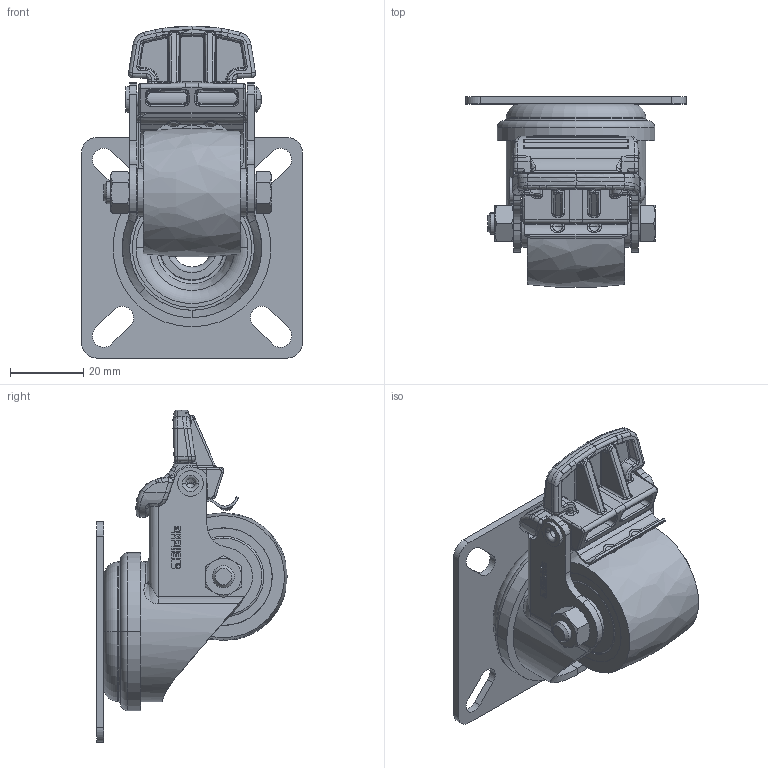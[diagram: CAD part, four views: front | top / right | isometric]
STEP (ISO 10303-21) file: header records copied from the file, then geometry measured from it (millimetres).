
FILE_DESCRIPTION (( 'STEP AP214' ), '1' );
FILE_NAME ('LPA-VSTH_35K-RA_935487-214.step', '2022-01-13T07:58:08', ( '' ), ( '' ), 'SwSTEP 2.0', 'SolidWorks 2018', '' );
FILE_SCHEMA (( 'AUTOMOTIVE_DESIGN' ));
Length unit declared in the file: millimetre
Products named in the file (5): GH-LPA-035x30-22-RA_6x30_G16_3D; VSTH_3D_G16_VSTH_35_6K_227934; VSTH_35_6K_G16_3D; LPA-VSTH_35K-RA_935487-214; GH-LPA_GH-LPA-035x30-22-RA_6x30
Assembly tree (4 placements, depth 3):
  LPA-VSTH_35K-RA_935487-214
    GH-LPA_GH-LPA-035x30-22-RA_6x30
      GH-LPA-035x30-22-RA_6x30_G16_3D
    VSTH_3D_G16_VSTH_35_6K_227934
      VSTH_35_6K_G16_3D
Bounding box: 60 x 51.9 x 90.36 mm (x, y, z)
Volume: 55953.2 mm3; surface area: 31489.7 mm2
Topology: 2 solids, 4 shells, 1345 faces, 3312 edges, 2036 vertices
Faces by surface type: plane 443, bspline 415, cylinder 328, torus 85, cone 62, sphere 12
Entity records: 65048 total; most frequent: CARTESIAN_POINT 29738, ORIENTED_EDGE 6600, DIRECTION 5008, EDGE_CURVE 3300, VERTEX_POINT 2036, AXIS2_PLACEMENT_3D 1771, VECTOR 1466, LINE 1466
